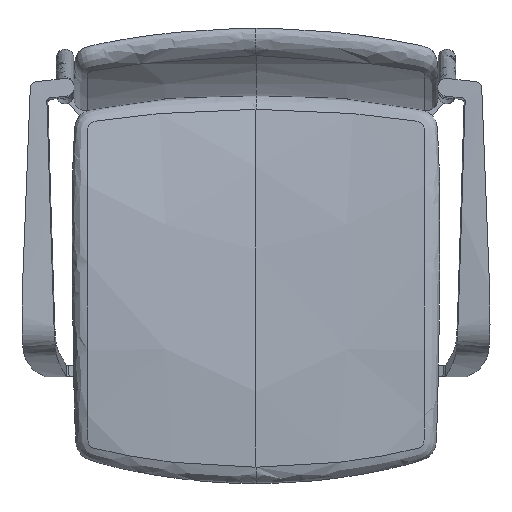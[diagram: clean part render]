
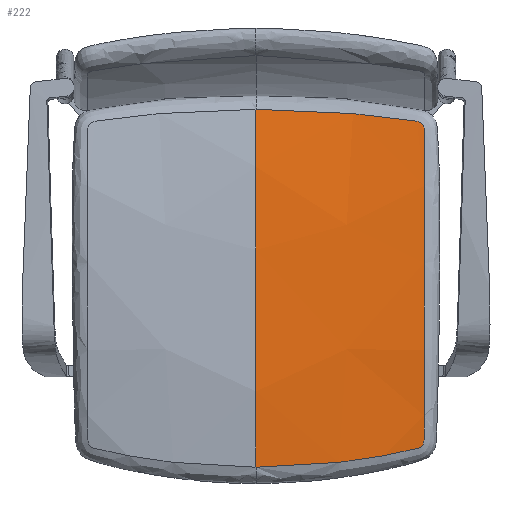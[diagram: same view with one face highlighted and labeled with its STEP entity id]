
A CAD part, top view. The second image highlights one B-rep face of the part: STEP entity #222.
In plain terms, the highlighted free-form (B-spline) face has degree [3, 3] with [6, 5] control points.
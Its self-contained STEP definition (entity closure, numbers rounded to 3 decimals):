
#222=ADVANCED_FACE('',(#326),#1371,.T.);
#326=FACE_OUTER_BOUND('',#430,.T.);
#430=EDGE_LOOP('',(#545,#546));
#545=ORIENTED_EDGE('',*,*,#986,.F.);
#546=ORIENTED_EDGE('',*,*,#989,.F.);
#986=EDGE_CURVE('',#1220,#1219,#1464,.T.);
#989=EDGE_CURVE('',#1219,#1220,#1467,.T.);
#1219=VERTEX_POINT('',#3324);
#1220=VERTEX_POINT('',#3325);
#1371=B_SPLINE_SURFACE_WITH_KNOTS('',3,3,((#2704,#2705,#2706,#2707,#2708),
(#2709,#2710,#2711,#2712,#2713),(#2714,#2715,#2716,#2717,#2718),(#2719,
#2720,#2721,#2722,#2723),(#2724,#2725,#2726,#2727,#2728),(#2729,#2730,#2731,
#2732,#2733)),.UNSPECIFIED.,.F.,.F.,.F.,(4,1,1,4),(4,1,4),(0.,150.405,
300.811,451.216),(0.,113.023,226.045),
 .UNSPECIFIED.);
#1464=B_SPLINE_CURVE_WITH_KNOTS('',3,(#3332,#3333,#3334,#3335,#3336,#3337),
 .UNSPECIFIED.,.F.,.F.,(4,1,1,4),(14.636,150.405,300.811,
436.736),.UNSPECIFIED.);
#1467=B_SPLINE_CURVE_WITH_KNOTS('',3,(#3408,#3409,#3410,#3411,#3412,#3413,
#3414,#3415,#3416,#3417,#3418,#3419,#3420,#3421,#3422,#3423,#3424,#3425,
#3426,#3427,#3428,#3429,#3430,#3431,#3432,#3433,#3434,#3435,#3436,#3437,
#3438,#3439,#3440,#3441,#3442,#3443,#3444,#3445,#3446,#3447,#3448,#3449,
#3450,#3451,#3452,#3453,#3454,#3455,#3456,#3457,#3458,#3459,#3460,#3461,
#3462,#3463,#3464,#3465,#3466,#3467,#3468,#3469,#3470,#3471,#3472,#3473),
 .UNSPECIFIED.,.F.,.F.,(4,2,2,2,1,1,1,2,2,2,2,2,1,1,1,2,2,2,2,2,2,2,2,2,
1,1,1,2,2,2,2,2,1,1,1,2,2,2,4),(-834.547,-732.977,-707.585,
-682.192,-634.077,-631.407,-628.738,
-626.069,-623.399,-620.73,-618.061,
-615.391,-612.722,-610.053,-607.384,
-561.831,-513.608,-489.497,-465.386,
-417.164,-368.942,-344.831,-320.72,
-272.498,-226.987,-224.275,-221.564,
-218.853,-216.141,-213.43,-210.718,
-208.007,-205.295,-202.584,-199.872,
-151.938,-126.615,-101.292,0.),.UNSPECIFIED.);
#2704=CARTESIAN_POINT('',(222.5,-257.5,447.92));
#2705=CARTESIAN_POINT('',(186.336,-267.419,456.436));
#2706=CARTESIAN_POINT('',(112.582,-282.432,461.217));
#2707=CARTESIAN_POINT('',(37.527,-287.459,461.479));
#2708=CARTESIAN_POINT('',(0.,-287.459,461.479));
#2709=CARTESIAN_POINT('',(222.5,-210.234,456.665));
#2710=CARTESIAN_POINT('',(186.401,-218.252,466.09));
#2711=CARTESIAN_POINT('',(112.677,-230.383,469.207));
#2712=CARTESIAN_POINT('',(37.559,-234.444,468.909));
#2713=CARTESIAN_POINT('',(0.,-234.444,468.909));
#2714=CARTESIAN_POINT('',(222.5,-115.677,460.522));
#2715=CARTESIAN_POINT('',(186.531,-119.935,467.649));
#2716=CARTESIAN_POINT('',(112.867,-126.362,463.263));
#2717=CARTESIAN_POINT('',(37.622,-128.511,461.788));
#2718=CARTESIAN_POINT('',(0.,-128.511,461.788));
#2719=CARTESIAN_POINT('',(222.5,26.117,455.406));
#2720=CARTESIAN_POINT('',(186.726,27.366,458.741));
#2721=CARTESIAN_POINT('',(113.151,29.293,448.584));
#2722=CARTESIAN_POINT('',(37.717,29.944,445.172));
#2723=CARTESIAN_POINT('',(0.,29.944,445.172));
#2724=CARTESIAN_POINT('',(222.5,120.418,444.736));
#2725=CARTESIAN_POINT('',(186.856,125.229,445.319));
#2726=CARTESIAN_POINT('',(113.341,132.56,434.981));
#2727=CARTESIAN_POINT('',(37.78,135.024,430.165));
#2728=CARTESIAN_POINT('',(0.,135.024,430.165));
#2729=CARTESIAN_POINT('',(222.5,167.5,432.588));
#2730=CARTESIAN_POINT('',(186.92,174.063,429.741));
#2731=CARTESIAN_POINT('',(113.436,184.054,417.229));
#2732=CARTESIAN_POINT('',(37.812,187.409,411.683));
#2733=CARTESIAN_POINT('',(0.,187.409,411.683));
#3324=CARTESIAN_POINT('',(0.,172.275,416.725));
#3325=CARTESIAN_POINT('',(0.,-271.984,463.345));
#3332=CARTESIAN_POINT('',(0.,-271.984,463.345));
#3333=CARTESIAN_POINT('',(0.,-224.136,468.206));
#3334=CARTESIAN_POINT('',(0.,-123.372,461.249));
#3335=CARTESIAN_POINT('',(0.,24.859,445.705));
#3336=CARTESIAN_POINT('',(0.,124.906,431.601));
#3337=CARTESIAN_POINT('',(0.,172.275,416.725));
#3408=CARTESIAN_POINT('',(0.,172.275,416.725));
#3409=CARTESIAN_POINT('',(33.428,172.274,416.725));
#3410=CARTESIAN_POINT('',(66.833,171.067,418.808));
#3411=CARTESIAN_POINT('',(108.273,168.045,423.155));
#3412=CARTESIAN_POINT('',(116.546,167.365,424.119));
#3413=CARTESIAN_POINT('',(133.064,165.851,426.169));
#3414=CARTESIAN_POINT('',(141.303,165.018,427.245));
#3415=CARTESIAN_POINT('',(165.179,162.377,430.343));
#3416=CARTESIAN_POINT('',(181.515,160.261,432.451));
#3417=CARTESIAN_POINT('',(199.038,157.674,434.137));
#3418=CARTESIAN_POINT('',(200.949,157.297,434.337));
#3419=CARTESIAN_POINT('',(202.303,156.803,434.534));
#3420=CARTESIAN_POINT('',(203.554,156.216,434.745));
#3421=CARTESIAN_POINT('',(204.158,155.865,434.863));
#3422=CARTESIAN_POINT('',(205.273,155.048,435.12));
#3423=CARTESIAN_POINT('',(205.785,154.581,435.26));
#3424=CARTESIAN_POINT('',(206.691,153.546,435.555));
#3425=CARTESIAN_POINT('',(207.084,152.978,435.71));
#3426=CARTESIAN_POINT('',(207.737,151.775,436.029));
#3427=CARTESIAN_POINT('',(207.999,151.137,436.193));
#3428=CARTESIAN_POINT('',(208.399,149.838,436.519));
#3429=CARTESIAN_POINT('',(208.689,148.451,436.857));
#3430=CARTESIAN_POINT('',(208.776,146.557,437.302));
#3431=CARTESIAN_POINT('',(208.742,129.822,441.126));
#3432=CARTESIAN_POINT('',(208.749,114.125,444.006));
#3433=CARTESIAN_POINT('',(208.73,83.211,448.722));
#3434=CARTESIAN_POINT('',(208.724,67.267,450.629));
#3435=CARTESIAN_POINT('',(208.712,43.289,453.027));
#3436=CARTESIAN_POINT('',(208.709,35.291,453.748));
#3437=CARTESIAN_POINT('',(208.701,19.285,455.088));
#3438=CARTESIAN_POINT('',(208.697,11.276,455.707));
#3439=CARTESIAN_POINT('',(208.686,-12.757,457.414));
#3440=CARTESIAN_POINT('',(208.678,-28.794,458.35));
#3441=CARTESIAN_POINT('',(208.663,-60.887,459.815));
#3442=CARTESIAN_POINT('',(208.656,-76.942,460.344));
#3443=CARTESIAN_POINT('',(208.644,-101.031,460.833));
#3444=CARTESIAN_POINT('',(208.641,-109.063,460.945));
#3445=CARTESIAN_POINT('',(208.633,-125.124,461.068));
#3446=CARTESIAN_POINT('',(208.629,-133.157,461.078));
#3447=CARTESIAN_POINT('',(208.618,-157.252,460.877));
#3448=CARTESIAN_POINT('',(208.609,-173.304,460.433));
#3449=CARTESIAN_POINT('',(208.599,-204.505,458.545));
#3450=CARTESIAN_POINT('',(208.578,-220.395,457.101));
#3451=CARTESIAN_POINT('',(208.596,-237.426,454.773));
#3452=CARTESIAN_POINT('',(208.506,-239.362,454.519));
#3453=CARTESIAN_POINT('',(208.218,-240.795,454.378));
#3454=CARTESIAN_POINT('',(207.826,-242.142,454.27));
#3455=CARTESIAN_POINT('',(207.57,-242.807,454.23));
#3456=CARTESIAN_POINT('',(206.935,-244.072,454.185));
#3457=CARTESIAN_POINT('',(206.555,-244.674,454.18));
#3458=CARTESIAN_POINT('',(205.68,-245.787,454.206));
#3459=CARTESIAN_POINT('',(205.185,-246.298,454.238));
#3460=CARTESIAN_POINT('',(204.107,-247.21,454.334));
#3461=CARTESIAN_POINT('',(203.522,-247.613,454.4));
#3462=CARTESIAN_POINT('',(202.306,-248.306,454.554));
#3463=CARTESIAN_POINT('',(200.982,-248.912,454.74));
#3464=CARTESIAN_POINT('',(199.118,-249.435,455.046));
#3465=CARTESIAN_POINT('',(181.911,-253.338,457.888));
#3466=CARTESIAN_POINT('',(165.65,-256.584,459.503));
#3467=CARTESIAN_POINT('',(141.78,-260.666,461.076));
#3468=CARTESIAN_POINT('',(133.518,-261.96,461.471));
#3469=CARTESIAN_POINT('',(116.939,-264.316,462.095));
#3470=CARTESIAN_POINT('',(108.632,-265.377,462.33));
#3471=CARTESIAN_POINT('',(67.022,-270.093,463.307));
#3472=CARTESIAN_POINT('',(33.509,-271.984,463.344));
#3473=CARTESIAN_POINT('',(0.,-271.984,463.345));
